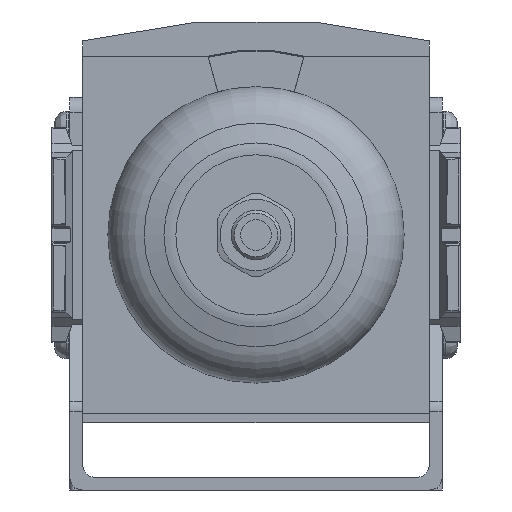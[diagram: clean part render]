
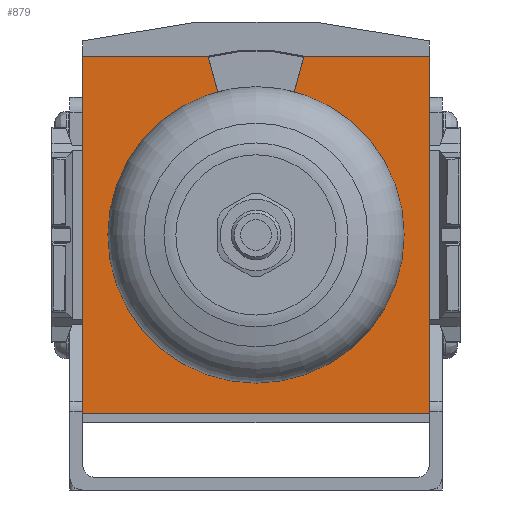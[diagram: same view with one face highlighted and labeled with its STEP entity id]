
A CAD part, front view. The second image highlights one B-rep face of the part: STEP entity #879.
In plain terms, the highlighted planar face has unit normal (0, -1, 0).
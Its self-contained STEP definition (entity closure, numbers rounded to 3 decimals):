
#879 = ADVANCED_FACE( '', ( #1835, #1836 ), #1837, .F. );
#1835 = FACE_BOUND( '', #2962, .T. );
#1836 = FACE_OUTER_BOUND( '', #2963, .T. );
#1837 = PLANE( '', #2964 );
#2962 = EDGE_LOOP( '', ( #5581 ) );
#2963 = EDGE_LOOP( '', ( #5582, #5583, #5584, #5585 ) );
#2964 = AXIS2_PLACEMENT_3D( '', #5586, #5587, #5588 );
#5581 = ORIENTED_EDGE( '', *, *, #6153, .F. );
#5582 = ORIENTED_EDGE( '', *, *, #6723, .F. );
#5583 = ORIENTED_EDGE( '', *, *, #6490, .F. );
#5584 = ORIENTED_EDGE( '', *, *, #6473, .F. );
#5585 = ORIENTED_EDGE( '', *, *, #6647, .F. );
#5586 = CARTESIAN_POINT( '', ( 0., -35., 0. ) );
#5587 = DIRECTION( '', ( 0., 1., 0. ) );
#5588 = DIRECTION( '', ( 0., 0., 1. ) );
#6153 = EDGE_CURVE( '', #7439, #7439, #7440, .F. );
#6473 = EDGE_CURVE( '', #7967, #7969, #7970, .T. );
#6490 = EDGE_CURVE( '', #7969, #7995, #7996, .T. );
#6647 = EDGE_CURVE( '', #8218, #7967, #8219, .T. );
#6723 = EDGE_CURVE( '', #7995, #8218, #8328, .T. );
#7439 = VERTEX_POINT( '', #9243 );
#7440 = CIRCLE( '', #9244, 29.047 );
#7967 = VERTEX_POINT( '', #10018 );
#7969 = VERTEX_POINT( '', #10021 );
#7970 = LINE( '', #10022, #10023 );
#7995 = VERTEX_POINT( '', #10059 );
#7996 = LINE( '', #10060, #10061 );
#8218 = VERTEX_POINT( '', #10369 );
#8219 = LINE( '', #10370, #10371 );
#8328 = LINE( '', #10528, #10529 );
#9243 = CARTESIAN_POINT( '', ( 0., -35., 29.047 ) );
#9244 = AXIS2_PLACEMENT_3D( '', #11290, #11291, #11292 );
#10018 = CARTESIAN_POINT( '', ( 33.994, -34.994, 35. ) );
#10021 = CARTESIAN_POINT( '', ( 34., -35., -35. ) );
#10022 = CARTESIAN_POINT( '', ( 34., -35., 35. ) );
#10023 = VECTOR( '', #11625, 1000. );
#10059 = CARTESIAN_POINT( '', ( -34., -35., -35. ) );
#10060 = CARTESIAN_POINT( '', ( 34., -35., -35. ) );
#10061 = VECTOR( '', #11640, 1000. );
#10369 = CARTESIAN_POINT( '', ( -34., -35., 35. ) );
#10370 = CARTESIAN_POINT( '', ( -34., -35., 35. ) );
#10371 = VECTOR( '', #11808, 1000. );
#10528 = CARTESIAN_POINT( '', ( -34., -35., -35. ) );
#10529 = VECTOR( '', #11893, 1000. );
#11290 = CARTESIAN_POINT( '', ( 0., -35., 0. ) );
#11291 = DIRECTION( '', ( 0., 1., 0. ) );
#11292 = DIRECTION( '', ( 0., 0., 1. ) );
#11625 = DIRECTION( '', ( 0., 0., -1. ) );
#11640 = DIRECTION( '', ( -1., 0., 0. ) );
#11808 = DIRECTION( '', ( 1., 0., 0. ) );
#11893 = DIRECTION( '', ( 0., 0., 1. ) );
